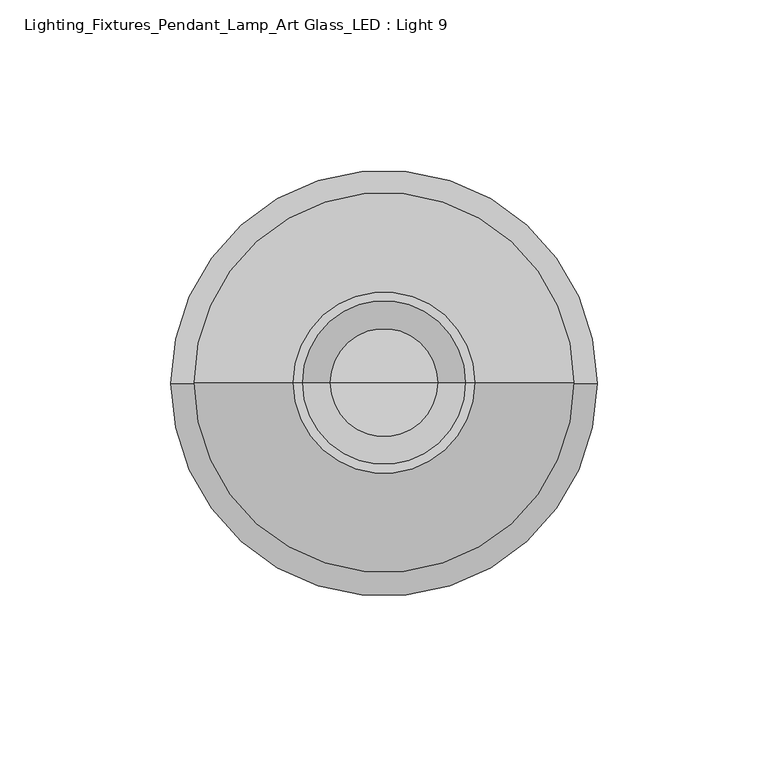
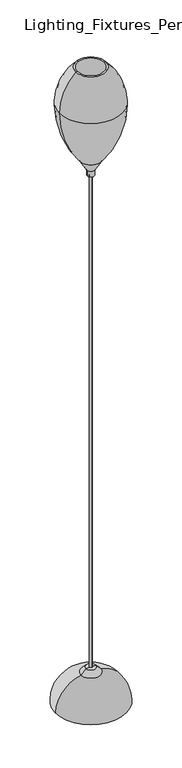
"""IFC4 building model written with IfcOpenShell, lengths in millimetres: light fixture geometry, Lighting_Fixtures_Pendant_Lamp_Art Glass_LED : Light 9."""

from ifc_helpers import new_model, si_unit, point, frame, frame_2d, origin, place, context, project, spatial, polyline, circle_curve, ellipse_curve, trimmed, segment, composite_curve, outline, extrude, source, transform, mapped, element, save
from ifc_brep_helpers import plane_surface, cylinder_surface, revolved_surface, advanced_brep


def lighting_fixtures_pendant_lamp_art_glass_led_light_9_3a7919a2(model_context):
    return source(origin(), model_context, "Body", "SolidModel", [
        advanced_brep(
        [(-19.1897668, 0.0, 1008.38), (17.3638849, 0.0, 1008.38), (14.9258339, 0.0, 1008.38), (-16.7517158, 0.0, 1008.38), (-56.475441, 0.0, 1111.3409929), (54.649559, 0.0, 1111.3409929), (-24.8838567, 0.0, 1177.925), (23.0579748, 0.0, 1177.925), (25.6239323, 0.0, 1177.925), (-27.4498143, 0.0, 1177.925), (53.3149972, 0.0, 1111.3409929), (-55.1408791, 0.0, 1111.3409929)],
        [
            (0, 1, circle_curve(frame((-0.912941, 0.0, 1008.38), z_axis=(0.0, 0.0, -1.0), x_axis=(1.0, 0.0, 0.0)), 18.2768259)),
            (1, 2),
            (2, 3, circle_curve(frame((-0.912941, 0.0, 1008.38), z_axis=(0.0, 0.0, 1.0), x_axis=(1.0, 0.0, 0.0)), 15.8387748)),
            (3, 0),
            (1, 0, circle_curve(frame((-0.912941, 0.0, 1008.38), z_axis=(0.0, 0.0, -1.0), x_axis=(1.0, 0.0, 0.0)), 18.2768259)),
            (3, 2, circle_curve(frame((-0.912941, 0.0, 1008.38), z_axis=(0.0, 0.0, 1.0), x_axis=(1.0, 0.0, 0.0)), 15.8387748)),
            (4, 5, circle_curve(frame((-0.912941, 0.0, 1111.3409929), z_axis=(0.0, 0.0, -1.0), x_axis=(1.0, 0.0, 0.0)), 55.5625)),
            (5, 1, circle_curve(frame((-106.1519799, 0.0, 1111.3409929), z_axis=(0.0, 1.0, 0.0), x_axis=(1.0, 0.0, 0.0)), 160.8015389)),
            (0, 4, circle_curve(frame((104.326098, 0.0, 1111.3409929), z_axis=(0.0, 1.0, 0.0), x_axis=(-1.0, 0.0, 0.0)), 160.8015389)),
            (5, 4, circle_curve(frame((-0.912941, 0.0, 1111.3409929), z_axis=(0.0, 0.0, -1.0), x_axis=(1.0, 0.0, 0.0)), 55.5625)),
            (6, 7, circle_curve(frame((-0.912941, 0.0, 1177.925), z_axis=(0.0, 0.0, -1.0), x_axis=(1.0, 0.0, 0.0)), 23.9709158)),
            (7, 8),
            (8, 9, circle_curve(frame((-0.912941, 0.0, 1177.925), z_axis=(0.0, 0.0, 1.0), x_axis=(1.0, 0.0, 0.0)), 26.5368733)),
            (9, 6),
            (7, 6, circle_curve(frame((-0.912941, 0.0, 1177.925), z_axis=(0.0, 0.0, -1.0), x_axis=(1.0, 0.0, 0.0)), 23.9709158)),
            (9, 8, circle_curve(frame((-0.912941, 0.0, 1177.925), z_axis=(0.0, 0.0, 1.0), x_axis=(1.0, 0.0, 0.0)), 26.5368733)),
            (2, 10, circle_curve(frame((-103.9519616, 0.0, 1111.3409929), z_axis=(0.0, -1.0, 0.0), x_axis=(1.0, 0.0, 0.0)), 157.2669588)),
            (10, 11, circle_curve(frame((-0.912941, 0.0, 1111.3409929), z_axis=(0.0, 0.0, 1.0), x_axis=(1.0, 0.0, 0.0)), 54.2279381)),
            (11, 3, circle_curve(frame((102.1260797, 0.0, 1111.3409929), z_axis=(0.0, -1.0, 0.0), x_axis=(-1.0, 0.0, 0.0)), 157.2669588)),
            (11, 10, circle_curve(frame((-0.912941, 0.0, 1111.3409929), z_axis=(0.0, 0.0, 1.0), x_axis=(1.0, 0.0, 0.0)), 54.2279381)),
            (8, 5, circle_curve(frame((-36.2342151, 0.0, 1111.3409929), z_axis=(0.0, 1.0, 0.0), x_axis=(1.0, 0.0, 0.0)), 90.8837741)),
            (4, 9, circle_curve(frame((34.4083332, 0.0, 1111.3409929), z_axis=(0.0, 1.0, 0.0), x_axis=(-1.0, 0.0, 0.0)), 90.8837741)),
            (10, 7, circle_curve(frame((-35.0763411, 0.0, 1111.3409929), z_axis=(0.0, -1.0, 0.0), x_axis=(1.0, 0.0, 0.0)), 88.3913382)),
            (6, 11, circle_curve(frame((33.2504591, 0.0, 1111.3409929), z_axis=(0.0, -1.0, 0.0), x_axis=(-1.0, 0.0, 0.0)), 88.3913382)),
        ],
        [
            plane_surface(frame((-0.912941, 0.0, 1008.38), z_axis=(0.0, 0.0, -1.0), x_axis=(1.0, 0.0, 0.0))),
            revolved_surface(trimmed(ellipse_curve(frame((-106.1519799, 0.0, 1111.3409929), z_axis=(0.0, -1.0, 0.0), x_axis=(1.0, 0.0, 0.0)), 160.8015389, 160.8015389), [point((17.3638849, 0.0, 1008.38))], [point((54.649559, 0.0, 1111.3409929))], True, "CARTESIAN"), (-0.912941, 0.0, 6754.1073186), (0.0, 0.0, 1.0)),
            plane_surface(frame((-0.912941, 0.0, 1177.925), z_axis=(0.0, 0.0, 1.0), x_axis=(1.0, 0.0, 0.0))),
            revolved_surface(trimmed(ellipse_curve(frame((-103.9519616, 0.0, 1111.3409929), z_axis=(0.0, 1.0, 0.0), x_axis=(1.0, 0.0, 0.0)), 157.2669588, 157.2669588), [point((53.3149972, 0.0, 1111.3409929))], [point((14.9258339, 0.0, 1008.38))], True, "CARTESIAN"), (-0.912941, 0.0, 6754.1073186), (0.0, 0.0, 1.0)),
            revolved_surface(trimmed(ellipse_curve(frame((-36.2342151, 0.0, 1111.3409929), z_axis=(0.0, -1.0, 0.0), x_axis=(1.0, 0.0, 0.0)), 90.8837741, 90.8837741), [point((54.649559, 0.0, 1111.3409929))], [point((25.6239323, 0.0, 1177.925))], True, "CARTESIAN"), (-0.912941, 0.0, 6754.1073186), (0.0, 0.0, 1.0)),
            revolved_surface(trimmed(ellipse_curve(frame((-35.0763411, 0.0, 1111.3409929), z_axis=(0.0, 1.0, 0.0), x_axis=(1.0, 0.0, 0.0)), 88.3913382, 88.3913382), [point((23.0579748, 0.0, 1177.925))], [point((53.3149972, 0.0, 1111.3409929))], True, "CARTESIAN"), (-0.912941, 0.0, 6754.1073186), (0.0, 0.0, 1.0)),
        ],
        [
            (0, [[1, 2, 3, 4]]),
            (0, [[5, -4, 6, -2]]),
            (1, [[7, 8, -1, 9]]),
            (1, [[10, -9, -5, -8]]),
            (2, [[11, 12, 13, 14]]),
            (2, [[15, -14, 16, -12]]),
            (3, [[-3, 17, 18, 19]]),
            (3, [[-6, -19, 20, -17]]),
            (4, [[-13, 21, -7, 22]]),
            (4, [[-16, -22, -10, -21]]),
            (5, [[-18, 23, -11, 24]]),
            (5, [[-20, -24, -15, -23]]),
        ],
    ),
        advanced_brep(
        [(-7.262941, 0.0, 987.7221316), (5.437059, 0.0, 987.7221316), (5.437059, 0.0, 977.9), (-7.262941, 0.0, 977.9), (-19.1897668, 0.0, 1008.38), (17.3638849, 0.0, 1008.38), (-0.912941, 0.0, 1008.38), (-0.912941, 0.0, 977.9)],
        [
            (0, 1, circle_curve(frame((-0.912941, 0.0, 987.7221316), z_axis=(0.0, 0.0, -1.0), x_axis=(1.0, 0.0, 0.0)), 6.35)),
            (1, 2),
            (2, 3, circle_curve(frame((-0.912941, 0.0, 977.9), z_axis=(0.0, 0.0, 1.0), x_axis=(1.0, 0.0, 0.0)), 6.35)),
            (3, 0),
            (1, 0, circle_curve(frame((-0.912941, 0.0, 987.7221316), z_axis=(0.0, 0.0, -1.0), x_axis=(1.0, 0.0, 0.0)), 6.35)),
            (3, 2, circle_curve(frame((-0.912941, 0.0, 977.9), z_axis=(0.0, 0.0, 1.0), x_axis=(1.0, 0.0, 0.0)), 6.35)),
            (4, 5, circle_curve(frame((-0.912941, 0.0, 1008.38), z_axis=(0.0, 0.0, -1.0), x_axis=(1.0, 0.0, 0.0)), 18.2768259)),
            (5, 1),
            (0, 4),
            (5, 4, circle_curve(frame((-0.912941, 0.0, 1008.38), z_axis=(0.0, 0.0, -1.0), x_axis=(1.0, 0.0, 0.0)), 18.2768259)),
            (6, 5),
            (4, 6),
            (2, 7),
            (7, 3),
        ],
        [
            cylinder_surface(frame((-0.912941, 0.0, 6754.1073186), z_axis=(0.0, 0.0, 1.0), x_axis=(1.0, 0.0, 0.0)), 6.35),
            revolved_surface(polyline([(5.437059, 0.0, 987.7221316), (17.3638849, 0.0, 1008.38)]), (-0.912941, 0.0, 6754.1073186), (0.0, 0.0, 1.0)),
            plane_surface(frame((-0.912941, 0.0, 1008.38), z_axis=(0.0, 0.0, 1.0), x_axis=(1.0, 0.0, 0.0))),
            plane_surface(frame((-0.912941, 0.0, 977.9), z_axis=(0.0, 0.0, -1.0), x_axis=(1.0, 0.0, 0.0))),
        ],
        [
            (0, [[1, 2, 3, 4]]),
            (0, [[5, -4, 6, -2]]),
            (1, [[7, 8, -1, 9]]),
            (1, [[10, -9, -5, -8]]),
            (2, [[11, -7, 12]]),
            (2, [[-12, -10, -11]]),
            (3, [[-3, 13, 14]]),
            (3, [[-6, -14, -13]]),
        ],
    ),
        advanced_brep(
        [(-18.6253579, 0.0, 54.4766065), (16.799476, 0.0, 54.4766065), (61.4307936, 0.0, 0.0), (-63.2566756, 0.0, 0.0), (-0.912941, 0.0, 0.0), (-10.0214773, 0.0, 63.5), (8.1955954, 0.0, 63.5), (-0.912941, 0.0, 63.5)],
        [
            (0, 1, circle_curve(frame((-0.912941, 0.0, 54.4766065), z_axis=(0.0, 0.0, -1.0), x_axis=(1.0, 0.0, 0.0)), 17.712417)),
            (1, 2, circle_curve(frame((5.8682936, 0.0, 0.0), z_axis=(0.0, 1.0, 0.0), x_axis=(1.0, 0.0, 0.0)), 55.5625)),
            (2, 3, circle_curve(frame((-0.912941, 0.0, 0.0), z_axis=(0.0, 0.0, 1.0), x_axis=(1.0, 0.0, 0.0)), 62.3437346)),
            (3, 0, circle_curve(frame((-7.6941756, 0.0, 0.0), z_axis=(0.0, 1.0, 0.0), x_axis=(-1.0, 0.0, 0.0)), 55.5625)),
            (1, 0, circle_curve(frame((-0.912941, 0.0, 54.4766065), z_axis=(0.0, 0.0, -1.0), x_axis=(1.0, 0.0, 0.0)), 17.712417)),
            (3, 2, circle_curve(frame((-0.912941, 0.0, 0.0), z_axis=(0.0, 0.0, 1.0), x_axis=(1.0, 0.0, 0.0)), 62.3437346)),
            (2, 4),
            (4, 3),
            (5, 6, circle_curve(frame((-0.912941, 0.0, 63.5), z_axis=(0.0, 0.0, -1.0), x_axis=(1.0, 0.0, 0.0)), 9.1085364)),
            (6, 1),
            (0, 5),
            (6, 5, circle_curve(frame((-0.912941, 0.0, 63.5), z_axis=(0.0, 0.0, -1.0), x_axis=(1.0, 0.0, 0.0)), 9.1085364)),
            (7, 6),
            (5, 7),
        ],
        [
            revolved_surface(trimmed(ellipse_curve(frame((5.8682936, 0.0, 0.0), z_axis=(0.0, -1.0, 0.0), x_axis=(1.0, 0.0, 0.0)), 55.5625, 55.5625), [point((61.4307936, 0.0, 0.0))], [point((16.799476, 0.0, 54.4766065))], True, "CARTESIAN"), (-0.912941, 0.0, 1402.3471624), (0.0, 0.0, 1.0)),
            plane_surface(frame((-0.912941, 0.0, 0.0), z_axis=(0.0, 0.0, -1.0), x_axis=(1.0, 0.0, 0.0))),
            revolved_surface(polyline([(16.799476, 0.0, 54.4766065), (8.1955954, 0.0, 63.5)]), (-0.912941, 0.0, 1402.3471624), (0.0, 0.0, 1.0)),
            plane_surface(frame((-0.912941, 0.0, 63.5), z_axis=(0.0, 0.0, 1.0), x_axis=(1.0, 0.0, 0.0))),
        ],
        [
            (0, [[1, 2, 3, 4]]),
            (0, [[5, -4, 6, -2]]),
            (1, [[-3, 7, 8]]),
            (1, [[-6, -8, -7]]),
            (2, [[9, 10, -1, 11]]),
            (2, [[12, -11, -5, -10]]),
            (3, [[13, -9, 14]]),
            (3, [[-14, -12, -13]]),
        ],
    ),
        extrude(outline(composite_curve([segment(trimmed(circle_curve(frame_2d((-0.912941, 0.0)), 2.54), [point((-0.912941, 2.54))], [point((-0.912941, -2.54))], False, "CARTESIAN"), True, "CONTINUOUS"), segment(trimmed(circle_curve(frame_2d((-0.912941, 0.0)), 2.54), [point((-0.912941, -2.54))], [point((-0.912941, 2.54))], False, "CARTESIAN"), True, "CONTINUOUS")], self_intersect=False)), frame((0.0, 0.0, 63.5), z_axis=(0.0, 0.0, 1.0), x_axis=(1.0, 0.0, 0.0)), (0.0, 0.0, 1.0), 914.4),
    ])


if __name__ == "__main__":
    model = new_model("IFC4")
    model_context = context("Model", 3, world=origin())
    ifc_project = project(units=[si_unit("LENGTHUNIT", "METRE", prefix="MILLI")], contexts=[model_context])
    site = spatial("IfcSite", under=ifc_project)
    building = spatial("IfcBuilding", under=site)
    placement = place(None, origin())
    lighting_fixtures_pendant_lamp_art_glass_led_light_9_shape = lighting_fixtures_pendant_lamp_art_glass_led_light_9_3a7919a2(model_context)
    element("IfcLightFixture", 1, ObjectType="Lighting_Fixtures_Pendant_Lamp_Art Glass_LED : Light 9", at=placement, inside=building, context=model_context, shape_type="MappedRepresentation", body=[
        mapped(lighting_fixtures_pendant_lamp_art_glass_led_light_9_shape, transform((0.0, 0.0, 0.0), x_axis=(1.0, 0.0, 0.0), y_axis=(0.0, 1.0, 0.0), z_axis=(0.0, 0.0, 1.0))),
    ])
    save(model, "model.ifc")
